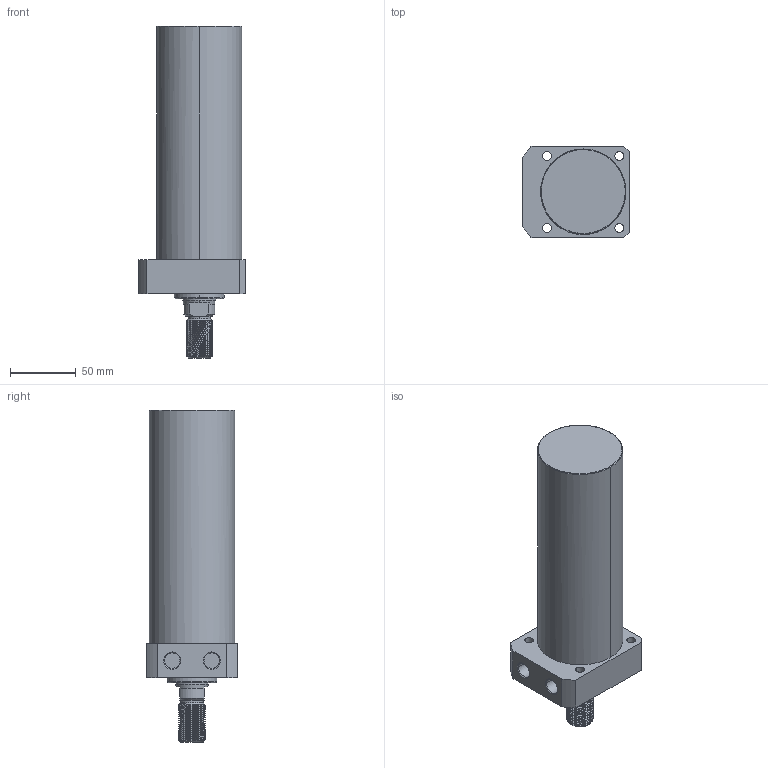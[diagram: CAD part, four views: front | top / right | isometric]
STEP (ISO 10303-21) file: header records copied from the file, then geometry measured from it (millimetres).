
FILE_DESCRIPTION((' '),'2;1');
FILE_NAME( 'TLLR-065CT-145.STEP.stp', '2025-10-24T16:35:02', (' '), ('--- Datakit www.datakit.com---'), ' Datakit CrossCadWare V2024.1 Dec 21 2023', 'Mastercam 2025', ' ');
FILE_SCHEMA(('AUTOMOTIVE_DESIGN { 1 0 10303 214 1 1 1 1 }'));
Length unit declared in the file: millimetre
Products named in the file (1): TLLR-065CT-145
Bounding box: 81 x 70 x 253 mm (x, y, z)
Volume: 747140 mm3; surface area: 62931 mm2
Topology: 1 solids, 1 shells, 106 faces, 382 edges, 286 vertices
Faces by surface type: cylinder 66, plane 20, cone 16, bspline 2, torus 2
Entity records: 12372 total; most frequent: CARTESIAN_POINT 9114, ORIENTED_EDGE 764, DIRECTION 533, EDGE_CURVE 382, VERTEX_POINT 286, AXIS2_PLACEMENT_3D 215, B_SPLINE_CURVE_WITH_KNOTS 169, EDGE_LOOP 122
